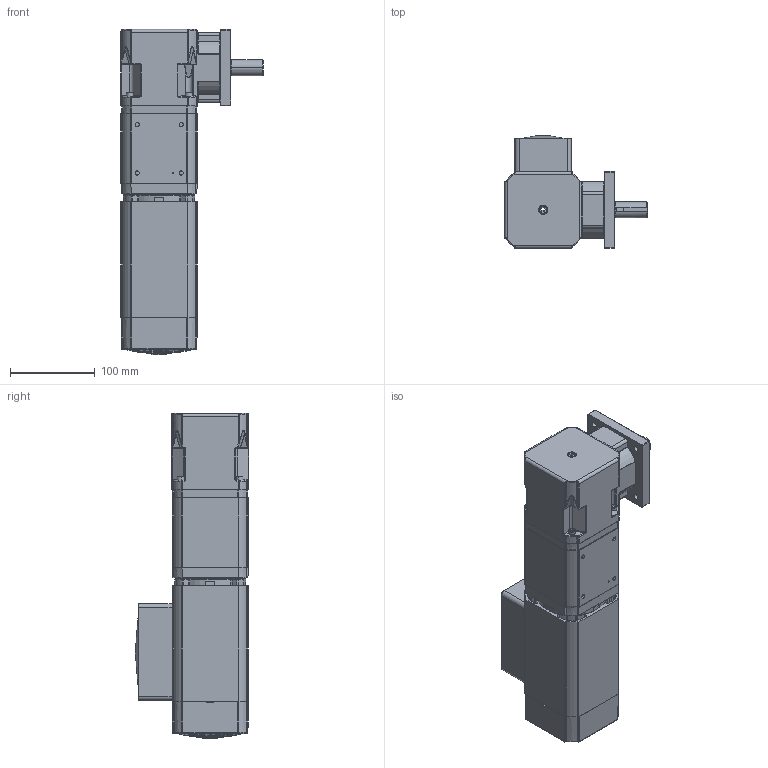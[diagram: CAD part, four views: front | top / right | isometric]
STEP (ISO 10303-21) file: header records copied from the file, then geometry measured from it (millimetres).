
FILE_DESCRIPTION (( 'STEP AP203' ), '1' );
FILE_NAME ('OUTLINE AC8060FC-RP7300_2S.STEP', '2006-09-22T21:04:19', ( 'Groschopp' ), ( 'Groschopp' ), 'SwSTEP 2.0', 'SolidWorks 2007', '' );
FILE_SCHEMA (( 'CONFIG_CONTROL_DESIGN' ));
Length unit declared in the file: inch
Products named in the file (1): OUTLINE AC8060FC-RP7300_2S
Bounding box: 168.35 x 133.71 x 384.33 mm (x, y, z)
Surface area: 323841.7 mm2 (no closed solid volume)
Topology: 0 solids, 42 shells, 1508 faces, 4846 edges, 3256 vertices
Faces by surface type: plane 737, cylinder 421, bspline 129, torus 104, cone 79, sphere 38
Entity records: 57995 total; most frequent: CARTESIAN_POINT 15914, DIRECTION 9332, ORIENTED_EDGE 7903, EDGE_CURVE 4808, AXIS2_PLACEMENT_3D 3638, VERTEX_POINT 3256, CIRCLE 2258, LINE 2056
